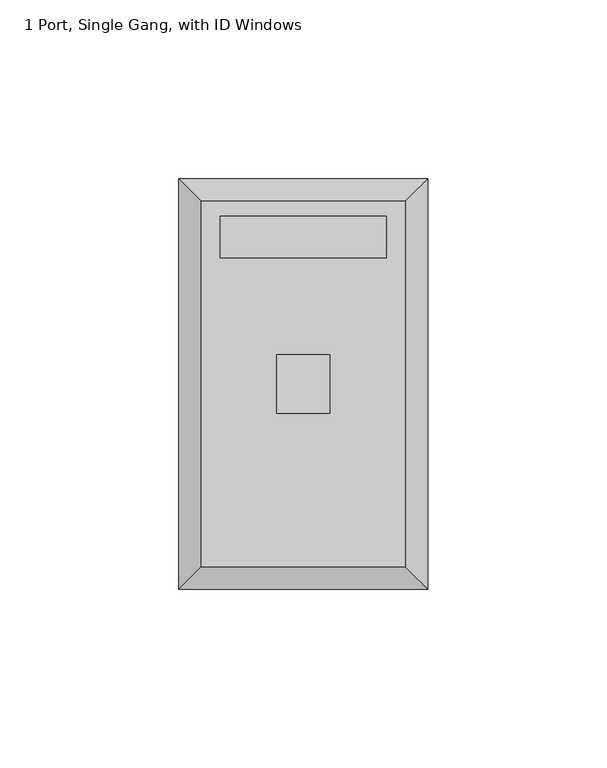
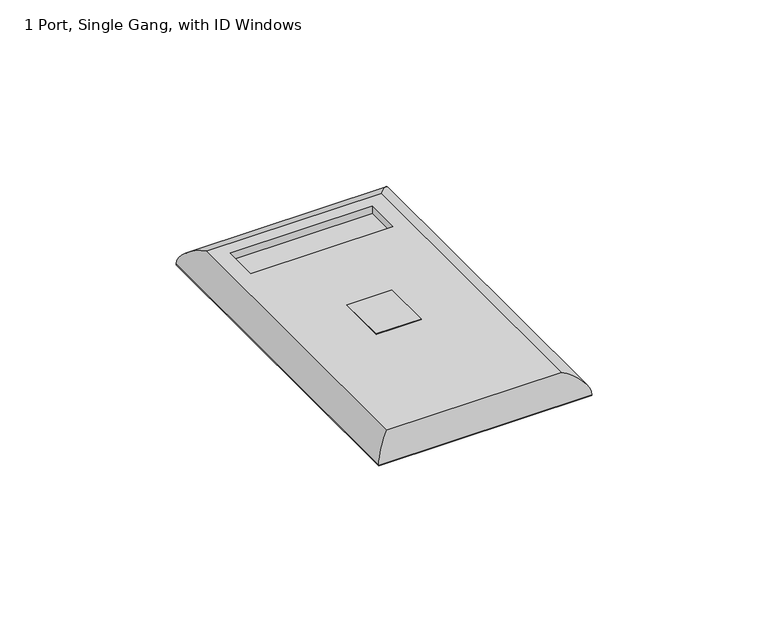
"""IFC4 building model written with IfcOpenShell, lengths in millimetres: electric appliance geometry, Data_Device-Work_Area-Leviton-QuickPort-Wallplate : 1 Port, Single Gang, with ID Windows."""

import ifcopenshell
import ifcopenshell.guid

model = None  # the IFC model being written
_history = None  # IfcOwnerHistory: only IFC2X3 demands one
_inside = {}  # id of a spatial element -> (the spatial element, [elements in it])
_under = {}  # id of a project, library or spatial element -> (it, [spatial elements below it])
_declared = {}  # id of a project -> (the project, [libraries it declares])
_typed = {}  # id of a type object -> (the type object, [elements of that type])
_made_of = {}  # id of a material, layer set ... -> (it, [elements and type objects made of it])


def new_model(schema):
    """Start an empty IFC model of exactly this schema.

    Asked for "IFC4X3", IfcOpenShell would pick the latest addendum, in which some entities
    have other attributes; the version numbers below select the first issue.
    IFC2X3 requires an IfcOwnerHistory on every rooted entity: one is made here for all.
    """
    global model, _history
    if schema == "IFC4X3":
        model = ifcopenshell.file(schema_version=(4, 3, 0, 0))
    else:
        model = ifcopenshell.file(schema=schema)
    _inside.clear()
    _under.clear()
    _declared.clear()
    _typed.clear()
    _made_of.clear()
    _history = None
    if model.schema == "IFC2X3":
        org = make("IfcOrganization", Name="unknown")
        user = make(
            "IfcPersonAndOrganization",
            ThePerson=make("IfcPerson", FamilyName="unknown"),
            TheOrganization=org,
        )
        app = make(
            "IfcApplication",
            ApplicationDeveloper=org,
            Version="unknown",
            ApplicationFullName="unknown",
            ApplicationIdentifier="unknown",
        )
        _history = make(
            "IfcOwnerHistory",
            OwningUser=user,
            OwningApplication=app,
            ChangeAction="ADDED",
            CreationDate=0,
        )
    return model


def make(cls, **values):
    """One entity of the class cls with the attributes given. An attribute that is None is left unset."""
    return model.create_entity(
        cls, **{name: value for name, value in values.items() if value is not None}
    )


def rooted(cls, **values):
    """An entity with a GlobalId (a new one), such as an element, a storey or a relation."""
    return make(cls, GlobalId=ifcopenshell.guid.new(), OwnerHistory=_history, **values)


def si_unit(unit_type, name, prefix=None):
    """IfcSIUnit, for example si_unit("LENGTHUNIT", "METRE", prefix="MILLI")."""
    return make("IfcSIUnit", UnitType=unit_type, Prefix=prefix, Name=name)


def assignment(units):
    """IfcUnitAssignment: the units of a project."""
    return None if units is None else make("IfcUnitAssignment", Units=units)


def point(xyz):
    """IfcCartesianPoint."""
    return None if xyz is None else make("IfcCartesianPoint", Coordinates=xyz)


def direction(xyz):
    """IfcDirection."""
    return None if xyz is None else make("IfcDirection", DirectionRatios=xyz)


def frame(location, z_axis=None, x_axis=None):
    """IfcAxis2Placement3D, a coordinate frame: its origin and axes. An axis left out is left unset."""
    return make(
        "IfcAxis2Placement3D",
        Location=point(location),
        Axis=direction(z_axis),
        RefDirection=direction(x_axis),
    )


def origin():
    """The frame at (0, 0, 0) with its axes left unset."""
    return frame((0.0, 0.0, 0.0))


def origin_with_axes():
    """The frame at (0, 0, 0) with the z axis (0, 0, 1) and the x axis (1, 0, 0) written out."""
    return frame((0.0, 0.0, 0.0), z_axis=(0.0, 0.0, 1.0), x_axis=(1.0, 0.0, 0.0))


def place(relative_to, where):
    """IfcLocalPlacement: puts the frame where relative to a parent placement (None: the world)."""
    return make(
        "IfcLocalPlacement", PlacementRelTo=relative_to, RelativePlacement=where
    )


def context(
    kind, dimensions, precision=None, world=None, true_north=None, identifier=None
):
    """IfcGeometricRepresentationContext, for example the 3D "Model" context."""
    return make(
        "IfcGeometricRepresentationContext",
        ContextIdentifier=identifier,
        ContextType=kind,
        CoordinateSpaceDimension=dimensions,
        Precision=precision,
        WorldCoordinateSystem=world,
        TrueNorth=true_north,
    )


def project(units=None, contexts=None):
    """IfcProject with its units and contexts."""
    return rooted(
        "IfcProject",
        Name="project",
        RepresentationContexts=contexts,
        UnitsInContext=assignment(units),
    )


def spatial(cls, under=None, at=None, **own):
    """A site, building, storey or space (cls), placed at a placement, below another one or the project."""
    s = rooted(cls, ObjectPlacement=at, **own)
    if under is not None:
        _under.setdefault(under.id(), (under, []))[1].append(s)
    return s


def polyline(points):
    """IfcPolyline through the points."""
    return make("IfcPolyline", Points=[point(p) for p in points])


def ellipse_curve(where, semi_axis1, semi_axis2):
    """IfcEllipse in the frame where."""
    return make(
        "IfcEllipse", Position=where, SemiAxis1=semi_axis1, SemiAxis2=semi_axis2
    )


def outline(outer, holes=None, kind="AREA"):
    """IfcArbitraryClosedProfileDef: a profile drawn as a closed curve; with holes, ...WithVoids."""
    if holes is None:
        return make("IfcArbitraryClosedProfileDef", ProfileType=kind, OuterCurve=outer)
    return make(
        "IfcArbitraryProfileDefWithVoids",
        ProfileType=kind,
        OuterCurve=outer,
        InnerCurves=holes,
    )


def extrude(swept, where, along, depth):
    """IfcExtrudedAreaSolid: the profile swept, set in the frame where, extruded along a direction by depth."""
    return make(
        "IfcExtrudedAreaSolid",
        SweptArea=swept,
        Position=where,
        ExtrudedDirection=direction(along),
        Depth=depth,
    )


def shape(context_of_items, identifier, shape_type, items):
    """IfcShapeRepresentation: the items that make up one representation, for example the "Body"."""
    return make(
        "IfcShapeRepresentation",
        ContextOfItems=context_of_items,
        RepresentationIdentifier=identifier,
        RepresentationType=shape_type,
        Items=items,
    )


def source(mapping_origin, context_of_items, identifier, shape_type, items):
    """IfcRepresentationMap: a shape defined once, which mapped items show again and again."""
    return make(
        "IfcRepresentationMap",
        MappingOrigin=mapping_origin,
        MappedRepresentation=shape(context_of_items, identifier, shape_type, items),
    )


def transform(
    local_origin,
    x_axis=None,
    y_axis=None,
    z_axis=None,
    scale=None,
    scale2=None,
    scale3=None,
    uniform=True,
):
    """IfcCartesianTransformationOperator3D, or its non-uniform kind. x_axis, y_axis, z_axis: its Axis1, 2, 3."""
    if uniform:
        return make(
            "IfcCartesianTransformationOperator3D",
            Axis1=direction(x_axis),
            Axis2=direction(y_axis),
            LocalOrigin=point(local_origin),
            Scale=scale,
            Axis3=direction(z_axis),
        )
    return make(
        "IfcCartesianTransformationOperator3DnonUniform",
        Axis1=direction(x_axis),
        Axis2=direction(y_axis),
        LocalOrigin=point(local_origin),
        Scale=scale,
        Axis3=direction(z_axis),
        Scale2=scale2,
        Scale3=scale3,
    )


def mapped(mapping_source, mapping_target):
    """IfcMappedItem: shows the shape of a source again, moved by a transform."""
    return make(
        "IfcMappedItem", MappingSource=mapping_source, MappingTarget=mapping_target
    )


def made_of(thing, what):
    """Note that an element or type object is made of a material, layer set ...; save() writes the relation."""
    if what is not None:
        _made_of.setdefault(what.id(), (what, []))[1].append(thing)
    return thing


def element(
    cls,
    number,
    at=None,
    inside=None,
    cuts=None,
    type_object=None,
    material=None,
    context=None,
    identifier="Body",
    shape_type=None,
    held_by="IfcProductDefinitionShape",
    body=None,
    shapes=None,
    **own,
):
    """One element of the class cls, such as IfcWall. Its Tag is "e" and its number.

    at: its placement. inside: the storey or other place that contains it. cuts: it is an
    opening in that element (IfcRelVoidsElement). A single representation is given by context,
    identifier, shape_type and body (its items); several are given by shapes. held_by: the class
    of the entity that holds the representations. save() writes the other relations.
    """
    e = rooted(cls, Tag="e%d" % number, ObjectPlacement=at, **own)
    if body is not None:
        shapes = [shape(context, identifier, shape_type, body)]
    if shapes is not None:
        e.Representation = make(held_by, Representations=shapes)
    if inside is not None:
        _inside.setdefault(inside.id(), (inside, []))[1].append(e)
    if cuts is not None:
        rooted(
            "IfcRelVoidsElement", RelatingBuildingElement=cuts, RelatedOpeningElement=e
        )
    if type_object is not None:
        _typed.setdefault(type_object.id(), (type_object, []))[1].append(e)
    return made_of(e, material)


def aggregate(whole, parts):
    """IfcRelAggregates: a whole, such as a stair, and the parts it consists of."""
    return rooted("IfcRelAggregates", RelatingObject=whole, RelatedObjects=parts)


def save(model, path):
    """Write the relations noted so far, then the file.

    IfcRelAggregates (storeys below a building ...), IfcRelContainedInSpatialStructure (elements
    in a storey), IfcRelDefinesByType, IfcRelAssociatesMaterial and IfcRelDeclares: one each for
    every whole, place, type object, material and project.
    """
    for whole, parts in _under.values():
        aggregate(whole, parts)
    for where, things in _inside.values():
        rooted(
            "IfcRelContainedInSpatialStructure",
            RelatedElements=things,
            RelatingStructure=where,
        )
    for kind, things in _typed.values():
        rooted("IfcRelDefinesByType", RelatedObjects=things, RelatingType=kind)
    for what, things in _made_of.values():
        rooted("IfcRelAssociatesMaterial", RelatedObjects=things, RelatingMaterial=what)
    for by, libraries in _declared.values():
        rooted("IfcRelDeclares", RelatingContext=by, RelatedDefinitions=libraries)
    model.write(path)


def plane_surface(at):
    """IfcPlane: the flat surface through the origin of the frame at, square to its z axis."""
    return make("IfcPlane", Position=at)


def cylinder_surface(at, radius):
    """IfcCylindricalSurface: all points at the distance radius from the z axis of the frame at."""
    return make("IfcCylindricalSurface", Position=at, Radius=radius)


def advanced_brep(points, edges, surfaces, faces):
    """IfcAdvancedBrep: a solid bounded by faces that lie on surfaces and meet in shared edges.

    An edge is (start, end): straight between two places in points (the first is 0);
    or (start, end, curve); or (start, end, curve, False) where it runs against its curve.
    A face is (place in surfaces, loops), or (place, loops, False) where it looks against
    its surface's normal. A loop lists edges by number (the first is 1), with a minus sign
    where the edge is run from its end to its start. The first loop is the outer one.
    """
    corners = [point(p) for p in points]
    vertices = [make("IfcVertexPoint", VertexGeometry=c) for c in corners]
    made = []
    for start, end, *more in edges:
        made.append(
            make(
                "IfcEdgeCurve",
                EdgeStart=vertices[start],
                EdgeEnd=vertices[end],
                EdgeGeometry=more[0] if more else make("IfcPolyline", Points=[corners[start], corners[end]]),
                SameSense=more[1] if len(more) > 1 else True,
            )
        )
    hull = []
    for where, loops, *sense in faces:
        bounds = []
        for j, loop in enumerate(loops):
            ring = [make("IfcOrientedEdge", EdgeElement=made[abs(k) - 1], Orientation=k > 0) for k in loop]
            bounds.append(
                make(
                    "IfcFaceOuterBound" if j == 0 else "IfcFaceBound",
                    Bound=make("IfcEdgeLoop", EdgeList=ring),
                    Orientation=True,
                )
            )
        hull.append(make("IfcAdvancedFace", Bounds=bounds, FaceSurface=surfaces[where], SameSense=sense[0] if sense else True))
    return make("IfcAdvancedBrep", Outer=make("IfcClosedShell", CfsFaces=hull))


def electric_appliance_1_port_single_gang_with_id_windows_df89d0ec(model_context):
    return source(origin(), model_context, "Body", "SolidModel", [
        extrude(outline(polyline([(-15.6591, 16.4465), (-15.6591, -0.0635), (-30.3911, -0.0635), (-30.3911, 16.4465), (-15.6591, 16.4465)])), origin_with_axes(), (0.0, 0.0, 1.0), 6.35),
        advanced_brep(
        [(5.5499, -42.9895, 6.35), (5.5499, 59.3725, 6.35), (-51.6001, 59.3725, 6.35), (-51.6001, -42.9895, 6.35), (-30.3911, 16.4465, 6.35), (-15.6591, 16.4465, 6.35), (-15.6591, -0.0635, 6.35), (-30.3911, -0.0635, 6.35), (-46.2661, 55.1815, 6.35), (0.2159, 55.1815, 6.35), (0.2159, 43.4975, 6.35), (-46.2661, 43.4975, 6.35), (11.8999, 65.7225, 0.0), (11.8999, -49.3395, 0.0), (-57.9501, -49.3395, 0.0), (-57.9501, 65.7225, 0.0), (-15.6591, 16.4465, 0.0), (-30.3911, 16.4465, 0.0), (-30.3911, -0.0635, 0.0), (-15.6591, -0.0635, 0.0), (-57.9501, 65.7225, 0.254), (11.8999, 65.7225, 0.254), (-57.9501, -49.3395, 0.254), (11.8999, -49.3395, 0.254), (0.2159, 55.1815, 3.81), (-46.2661, 55.1815, 3.81), (-46.2661, 43.4975, 3.81), (0.2159, 43.4975, 3.81)],
        [
            (0, 1),
            (1, 2),
            (2, 3),
            (3, 0),
            (4, 5),
            (5, 6),
            (6, 7),
            (7, 4),
            (8, 9),
            (9, 10),
            (10, 11),
            (11, 8),
            (12, 13),
            (13, 14),
            (14, 15),
            (15, 12),
            (16, 17),
            (17, 18),
            (18, 19),
            (19, 16),
            (15, 20),
            (20, 21),
            (21, 12),
            (14, 22),
            (22, 20),
            (13, 23),
            (23, 22),
            (21, 23),
            (4, 17),
            (16, 5),
            (7, 18),
            (6, 19),
            (0, 23, ellipse_curve(frame((5.5499, -42.9895, -0.0052917), z_axis=(0.7071067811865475, 0.7071067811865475, 0.0), x_axis=(0.7071067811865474, -0.7071067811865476, 0.0)), 8.9877397, 6.3552917)),
            (21, 1, ellipse_curve(frame((5.5499, 59.3725, -0.0052917), z_axis=(0.7071067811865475, -0.7071067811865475, 0.0), x_axis=(-0.7071067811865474, -0.7071067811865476, 0.0)), 8.9877397, 6.3552917)),
            (3, 22, ellipse_curve(frame((-51.6001, -42.9895, -0.0052917), z_axis=(0.7071067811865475, -0.7071067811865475, 0.0), x_axis=(-0.7071067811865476, -0.7071067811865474, 0.0)), 8.9877397, 6.3552917)),
            (2, 20, ellipse_curve(frame((-51.6001, 59.3725, -0.0052917), z_axis=(-0.7071067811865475, -0.7071067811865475, 0.0), x_axis=(-0.7071067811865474, 0.7071067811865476, 0.0)), 8.9877397, 6.3552917)),
            (24, 25),
            (25, 26),
            (26, 27),
            (27, 24),
            (24, 9),
            (8, 25),
            (11, 26),
            (10, 27),
        ],
        [
            plane_surface(frame((-57.9501, 65.7225, 6.35), z_axis=(0.0, 0.0, 1.0), x_axis=(-1.0, 0.0, 0.0))),
            plane_surface(frame((-57.9501, 65.7225, 0.0), z_axis=(0.0, 0.0, -1.0), x_axis=(1.0, 0.0, 0.0))),
            plane_surface(frame((11.8999, 65.7225, 6.35), z_axis=(0.0, 1.0, 0.0), x_axis=(0.0, 0.0, -1.0))),
            plane_surface(frame((-57.9501, 65.7225, 6.35), z_axis=(-1.0, 0.0, 0.0), x_axis=(0.0, 0.0, -1.0))),
            plane_surface(frame((-57.9501, -49.3395, 6.35), z_axis=(0.0, -1.0, 0.0), x_axis=(0.0, 0.0, -1.0))),
            plane_surface(frame((11.8999, -49.3395, 6.35), z_axis=(1.0, 0.0, 0.0), x_axis=(0.0, 0.0, -1.0))),
            plane_surface(frame((-15.6591, 16.4465, 6.35), z_axis=(0.0, -1.0, 0.0), x_axis=(0.0, 0.0, -1.0))),
            plane_surface(frame((-30.3911, 16.4465, 6.35), z_axis=(1.0, 0.0, 0.0), x_axis=(0.0, 0.0, -1.0))),
            plane_surface(frame((-30.3911, -0.0635, 6.35), z_axis=(0.0, 1.0, 0.0), x_axis=(0.0, 0.0, -1.0))),
            plane_surface(frame((-15.6591, -0.0635, 6.35), z_axis=(-1.0, 0.0, 0.0), x_axis=(0.0, 0.0, -1.0))),
            cylinder_surface(frame((5.5499, 65.7225, -0.0052917), z_axis=(0.0, -1.0, 0.0), x_axis=(1.0, 0.0, 0.0)), 6.3552917),
            cylinder_surface(frame((11.8999, -42.9895, -0.0052917), z_axis=(-1.0, 0.0, 0.0), x_axis=(0.0, -1.0, 0.0)), 6.3552917),
            cylinder_surface(frame((-51.6001, -49.3395, -0.0052917), z_axis=(0.0, 1.0, 0.0), x_axis=(-1.0, 0.0, 0.0)), 6.3552917),
            cylinder_surface(frame((-57.9501, 59.3725, -0.0052917), z_axis=(1.0, 0.0, 0.0), x_axis=(0.0, 1.0, 0.0)), 6.3552917),
            plane_surface(frame((-46.2661, 55.1815, 3.81), z_axis=(0.0, 0.0, 1.0), x_axis=(1.0, 0.0, 0.0))),
            plane_surface(frame((0.2159, 55.1815, 6.35), z_axis=(0.0, -1.0, 0.0), x_axis=(0.0, 0.0, -1.0))),
            plane_surface(frame((-46.2661, 55.1815, 6.35), z_axis=(1.0, 0.0, 0.0), x_axis=(0.0, 0.0, -1.0))),
            plane_surface(frame((-46.2661, 43.4975, 6.35), z_axis=(0.0, 1.0, 0.0), x_axis=(0.0, 0.0, -1.0))),
            plane_surface(frame((0.2159, 43.4975, 6.35), z_axis=(-1.0, 0.0, 0.0), x_axis=(0.0, 0.0, -1.0))),
        ],
        [
            (0, [[1, 2, 3, 4], [5, 6, 7, 8], [9, 10, 11, 12]]),
            (1, [[13, 14, 15, 16], [17, 18, 19, 20]]),
            (2, [[-16, 21, 22, 23]]),
            (3, [[-15, 24, 25, -21]]),
            (4, [[-14, 26, 27, -24]]),
            (5, [[-13, -23, 28, -26]]),
            (6, [[29, -17, 30, -5]]),
            (7, [[-29, -8, 31, -18]]),
            (8, [[-31, -7, 32, -19]]),
            (9, [[-30, -20, -32, -6]]),
            (10, [[33, -28, 34, -1]]),
            (11, [[-33, -4, 35, -27]]),
            (12, [[-35, -3, 36, -25]]),
            (13, [[-34, -22, -36, -2]]),
            (14, [[37, 38, 39, 40]]),
            (15, [[-37, 41, -9, 42]]),
            (16, [[-38, -42, -12, 43]]),
            (17, [[-39, -43, -11, 44]]),
            (18, [[-40, -44, -10, -41]]),
        ],
    ),
        extrude(outline(polyline([(11.6459, 65.4685), (11.6459, -49.0855), (-57.6961, -49.0855), (-57.6961, 65.4685), (11.6459, 65.4685)]), holes=[polyline([(-15.6591, 16.4465), (-30.3911, 16.4465), (-30.3911, -0.0635), (-15.6591, -0.0635), (-15.6591, 16.4465)])]), origin_with_axes(), (0.0, 0.0, 1.0), 0.254),
    ])


if __name__ == "__main__":
    model = new_model("IFC4")
    model_context = context("Model", 3, world=origin())
    ifc_project = project(units=[si_unit("LENGTHUNIT", "METRE", prefix="MILLI")], contexts=[model_context])
    site = spatial("IfcSite", under=ifc_project)
    building = spatial("IfcBuilding", under=site)
    placement = place(None, origin())
    electric_appliance_1_port_single_gang_with_id_windows_shape = electric_appliance_1_port_single_gang_with_id_windows_df89d0ec(model_context)
    element("IfcElectricAppliance", 1, ObjectType="Data_Device-Work_Area-Leviton-QuickPort-Wallplate : 1 Port, Single Gang, with ID Windows", at=placement, inside=building, context=model_context, shape_type="MappedRepresentation", body=[
        mapped(electric_appliance_1_port_single_gang_with_id_windows_shape, transform((0.0, 0.0, 0.0), x_axis=(1.0, 0.0, 0.0), y_axis=(0.0, 1.0, 0.0), z_axis=(0.0, 0.0, 1.0))),
    ])
    save(model, "model.ifc")
